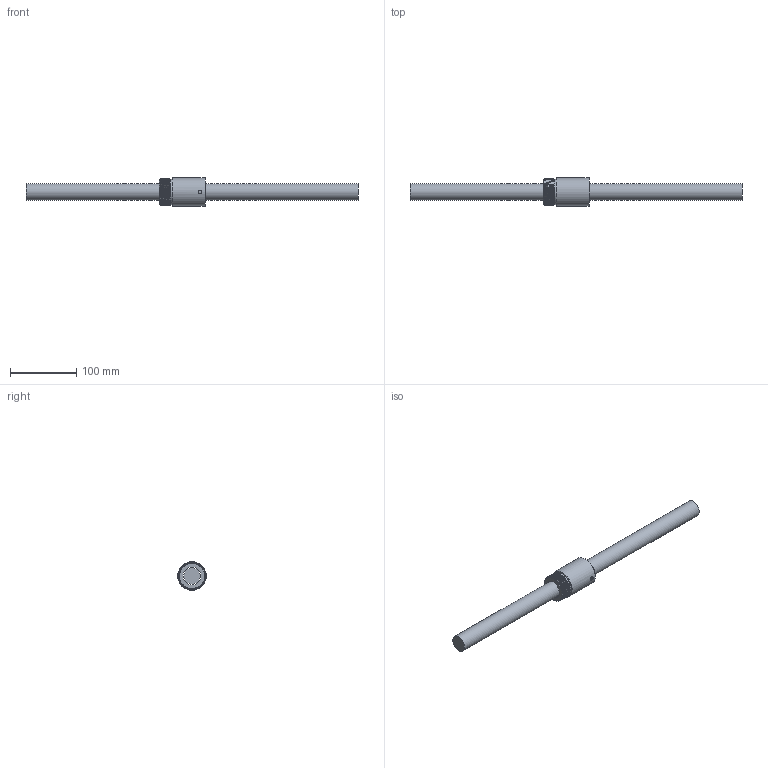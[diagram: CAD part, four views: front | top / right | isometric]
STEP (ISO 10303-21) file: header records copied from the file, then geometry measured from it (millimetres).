
FILE_DESCRIPTION (( 'STEP AP203' ), '1' );
FILE_NAME ('BSHR02505-4.STEP', '2024-05-31T07:18:46', ( '' ), ( '' ), 'SwSTEP 2.0', 'SolidWorks 2022', '' );
FILE_SCHEMA (( 'CONFIG_CONTROL_DESIGN' ));
Length unit declared in the file: millimetre
Products named in the file (1): BSHR02505-4
Bounding box: 500 x 43 x 43 mm (x, y, z)
Volume: 300779.4 mm3; surface area: 58445.7 mm2
Topology: 2 solids, 2 shells, 24 faces, 55 edges, 37 vertices
Faces by surface type: cylinder 7, bspline 7, plane 6, cone 2, torus 2
Full cylindrical faces by diameter (mm): 3 x1, 25 x1, 27.1 x1, 38 x1, 43 x1
Entity records: 10822 total; most frequent: CARTESIAN_POINT 10333, ORIENTED_EDGE 82, DIRECTION 66, EDGE_CURVE 41, EDGE_LOOP 39, AXIS2_PLACEMENT_3D 33, VERTEX_POINT 32, FACE_OUTER_BOUND 31
